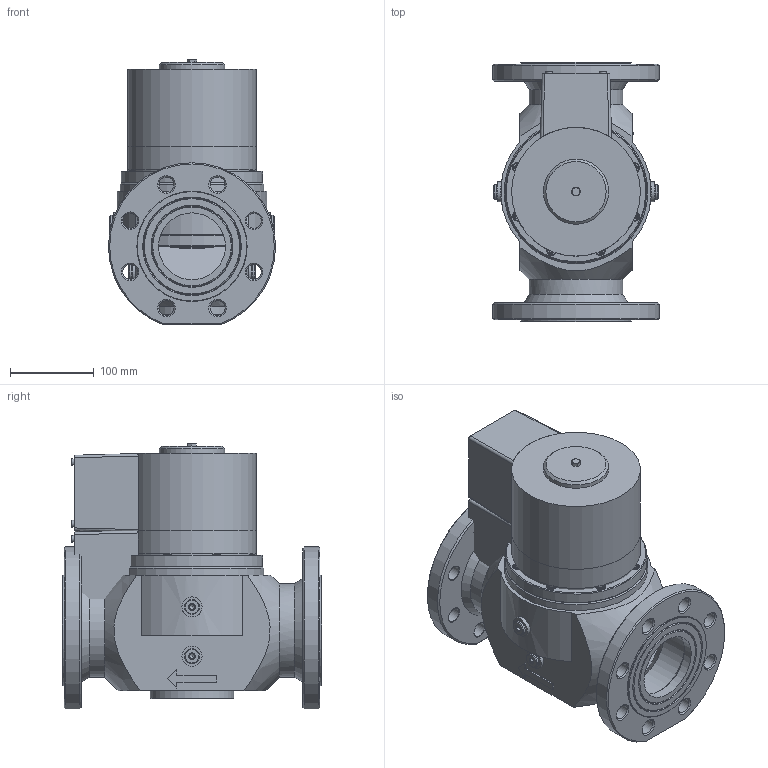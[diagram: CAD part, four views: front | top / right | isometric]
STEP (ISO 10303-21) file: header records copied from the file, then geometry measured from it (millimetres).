
FILE_DESCRIPTION( ( 'Unknown' ), '1' );
FILE_NAME( 'D:/Wyroby/Widoki gabarytowe/Zawory ZEA/ZEA_80k/ZEA_80k.stp', 'Unknown', ( 'Unknown' ), ( 'Unknown' ), 'XStep 1.0', 'Unknown', ' ' );
FILE_SCHEMA( ( 'CONFIG_CONTROL_DESIGN' ) );
Length unit declared in the file: millimetre
Products named in the file (46): Wa_077_01_00; Wa_091_01_02; Wa_085_01_02; Wa_112_01_03z_korkami; Assem1; Wa_074_01_01; Wa_091_01_03got.; Wa_031_01_05_001got; Wa_091_01_02_001got.; Wa_091_01_02_002got.; Ko³ek 6x50; Wa_074_01_01_001zaci從i黎y; Wa_080_01_02_003zaci從i黎a; Wa_080_01_02_002; Wa_112_01_03b.g._z.k.; Wa_080_01_01_001gotowe; Wa_031_01_00_012; Wa_031_01_00_010; T-026; K-006got.; Wa_074_01_00_001; Œ-027ImbusM6x18; Wa_091_01_00_005; Œ-006m6x12szeœc.; Wa_091_01_00_002; Wa_031_01_00_006; Wa_112_01_05; Wa_114_01_00_010彡i從i黎a53; Oring130x3彡i從i黎y; Wa_091_01_04_010; Wa_031_01_00_007; Cewka_100
Bounding box: 200 x 310 x 318 mm (x, y, z)
Volume: 18233014.4 mm3; surface area: 3024037.8 mm2
Topology: 132 solids, 132 shells, 2404 faces, 5201 edges, 3325 vertices
Faces by surface type: plane 1052, cylinder 668, cone 639, torus 33, sphere 9, bspline 3
Full cylindrical faces by diameter (mm): 2 x5, 2.1 x8, 2.5 x6, 3.2 x4, 4.917 x36, 6 x35, 6.2 x10, 6.5 x3, 6.6 x24, 8 x8, 10 x32, 11 x24, 11.445 x16, 13 x12, 13.8 x12, 18 x88, 24 x16, 25 x4, 26 x3, 30 x3, 32 x4, 32.2 x8, 40 x4, 41 x3, 42.8 x4, 43.7 x12, 45 x4, 46.6 x8, 46.917 x8, 48 x8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
Entity records: 21125 total; most frequent: CARTESIAN_POINT 5587, DIRECTION 2954, ORIENTED_EDGE 2050, AXIS2_PLACEMENT_3D 1307, EDGE_LOOP 1224, EDGE_CURVE 1025, FACE_OUTER_BOUND 877, VERTEX_POINT 854
